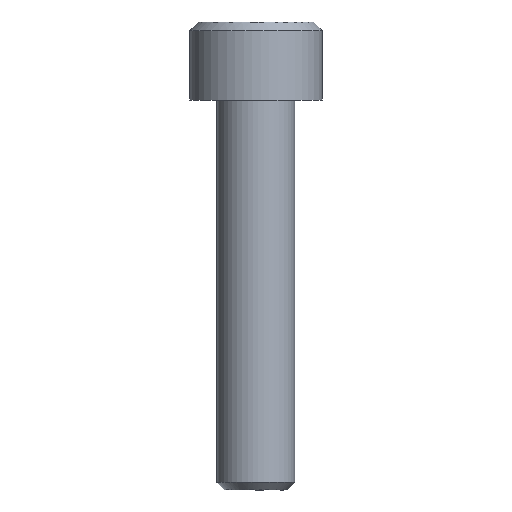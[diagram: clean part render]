
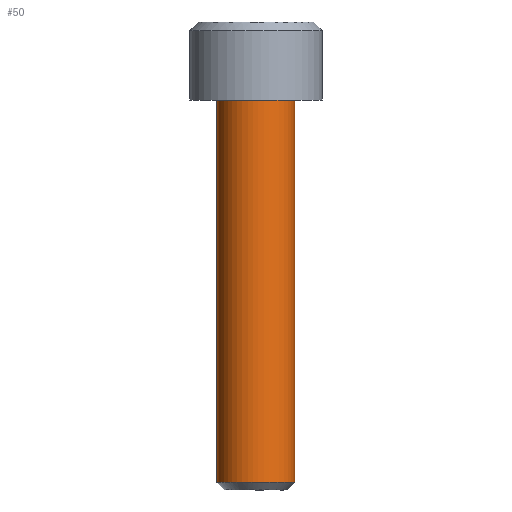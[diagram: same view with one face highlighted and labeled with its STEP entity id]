
A CAD part, front view. The second image highlights one B-rep face of the part: STEP entity #50.
In plain terms, the highlighted free-form (B-spline) face has degree [2, 1] with [9, 2] control points.
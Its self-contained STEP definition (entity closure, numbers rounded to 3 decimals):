
#50=ADVANCED_FACE('',(#75),#756,.T.);
#75=FACE_OUTER_BOUND('',#100,.T.);
#100=EDGE_LOOP('',(#191,#192,#193,#194));
#191=ORIENTED_EDGE('',*,*,#528,.F.);
#192=ORIENTED_EDGE('',*,*,#571,.T.);
#193=ORIENTED_EDGE('',*,*,#530,.F.);
#194=ORIENTED_EDGE('',*,*,#570,.F.);
#240=(
BOUNDED_CURVE()
B_SPLINE_CURVE(2,(#1373,#1374,#1375,#1376,#1377),.UNSPECIFIED.,.F.,.F.)
B_SPLINE_CURVE_WITH_KNOTS((3,2,3),(-7.854,-3.927,0.),
 .UNSPECIFIED.)
CURVE()
GEOMETRIC_REPRESENTATION_ITEM()
RATIONAL_B_SPLINE_CURVE((1.,0.707,1.,0.707,1.))
REPRESENTATION_ITEM('')
);
#241=(
BOUNDED_CURVE()
B_SPLINE_CURVE(2,(#1386,#1387,#1388,#1389,#1390),.UNSPECIFIED.,.F.,.F.)
B_SPLINE_CURVE_WITH_KNOTS((3,2,3),(-7.854,-3.927,0.),
 .UNSPECIFIED.)
CURVE()
GEOMETRIC_REPRESENTATION_ITEM()
RATIONAL_B_SPLINE_CURVE((1.,0.707,1.,0.707,1.))
REPRESENTATION_ITEM('')
);
#245=(
BOUNDED_CURVE()
B_SPLINE_CURVE(2,(#1412,#1413,#1414,#1415,#1416),.UNSPECIFIED.,.F.,.F.)
B_SPLINE_CURVE_WITH_KNOTS((3,2,3),(-7.854,-3.927,0.),
 .UNSPECIFIED.)
CURVE()
GEOMETRIC_REPRESENTATION_ITEM()
RATIONAL_B_SPLINE_CURVE((1.,0.707,1.,0.707,1.))
REPRESENTATION_ITEM('')
);
#259=PCURVE('',#751,#367);
#261=PCURVE('',#751,#369);
#332=PCURVE('',#755,#440);
#335=PCURVE('',#756,#443);
#336=PCURVE('',#756,#444);
#337=PCURVE('',#756,#445);
#338=PCURVE('',#756,#446);
#341=PCURVE('',#747,#449);
#367=DEFINITIONAL_REPRESENTATION('',(#588),#1472);
#369=DEFINITIONAL_REPRESENTATION('',(#591),#1472);
#440=DEFINITIONAL_REPRESENTATION('',(#680),#1472);
#443=DEFINITIONAL_REPRESENTATION('',(#683),#1472);
#444=DEFINITIONAL_REPRESENTATION('',(#684),#1472);
#445=DEFINITIONAL_REPRESENTATION('',(#685),#1472);
#446=DEFINITIONAL_REPRESENTATION('',(#686),#1472);
#449=DEFINITIONAL_REPRESENTATION('',(#245),#1472);
#474=SURFACE_CURVE('',#587,(#259,#335),.PCURVE_S1.);
#476=SURFACE_CURVE('',#590,(#261,#337),.PCURVE_S1.);
#516=SURFACE_CURVE('',#240,(#332,#338),.PCURVE_S1.);
#517=SURFACE_CURVE('',#241,(#336,#341),.PCURVE_S1.);
#528=EDGE_CURVE('',#707,#708,#474,.T.);
#530=EDGE_CURVE('',#709,#710,#476,.T.);
#570=EDGE_CURVE('',#708,#709,#516,.T.);
#571=EDGE_CURVE('',#707,#710,#517,.T.);
#587=B_SPLINE_CURVE_WITH_KNOTS('',1,(#1109,#1110),.UNSPECIFIED.,.F.,.F.,
(2,2),(-24.51,0.),.UNSPECIFIED.);
#588=B_SPLINE_CURVE_WITH_KNOTS('',1,(#1111,#1112),.UNSPECIFIED.,.F.,.F.,
(2,2),(-24.51,0.),.UNSPECIFIED.);
#590=B_SPLINE_CURVE_WITH_KNOTS('',1,(#1120,#1121),.UNSPECIFIED.,.F.,.F.,
(2,2),(-24.51,0.),.UNSPECIFIED.);
#591=B_SPLINE_CURVE_WITH_KNOTS('',1,(#1122,#1123),.UNSPECIFIED.,.F.,.F.,
(2,2),(-24.51,0.),.UNSPECIFIED.);
#680=B_SPLINE_CURVE_WITH_KNOTS('',1,(#1378,#1379),.UNSPECIFIED.,.F.,.F.,
(2,2),(-7.854,0.),.UNSPECIFIED.);
#683=B_SPLINE_CURVE_WITH_KNOTS('',1,(#1384,#1385),.UNSPECIFIED.,.F.,.F.,
(2,2),(-24.51,0.),.UNSPECIFIED.);
#684=B_SPLINE_CURVE_WITH_KNOTS('',1,(#1391,#1392),.UNSPECIFIED.,.F.,.F.,
(2,2),(-7.854,0.),.UNSPECIFIED.);
#685=B_SPLINE_CURVE_WITH_KNOTS('',1,(#1393,#1394),.UNSPECIFIED.,.F.,.F.,
(2,2),(-24.51,0.),.UNSPECIFIED.);
#686=B_SPLINE_CURVE_WITH_KNOTS('',1,(#1395,#1396),.UNSPECIFIED.,.F.,.F.,
(2,2),(-7.854,0.),.UNSPECIFIED.);
#707=VERTEX_POINT('',#1043);
#708=VERTEX_POINT('',#1044);
#709=VERTEX_POINT('',#1045);
#710=VERTEX_POINT('',#1046);
#747=PLANE('',#813);
#751=(
BOUNDED_SURFACE()
B_SPLINE_SURFACE(2,1,((#878,#879),(#880,#881),(#882,#883),(#884,#885),(#886,
#887),(#888,#889),(#890,#891),(#892,#893),(#894,#895)),.UNSPECIFIED.,.T.,
 .F.,.F.)
B_SPLINE_SURFACE_WITH_KNOTS((3,2,2,2,3),(2,2),(0.,1.571,3.142,
4.712,6.283),(0.,29.414),.UNSPECIFIED.)
GEOMETRIC_REPRESENTATION_ITEM()
RATIONAL_B_SPLINE_SURFACE(((1.,1.),(0.707,0.707),
(1.,1.),(0.707,0.707),(1.,1.),(0.707,
0.707),(1.,1.),(0.707,0.707),(1.,1.)))
REPRESENTATION_ITEM('')
SURFACE()
);
#755=(
BOUNDED_SURFACE()
B_SPLINE_SURFACE(2,1,((#963,#964),(#965,#966),(#967,#968),(#969,#970),(#971,
#972),(#973,#974),(#975,#976),(#977,#978),(#979,#980)),.UNSPECIFIED.,.T.,
 .F.,.F.)
B_SPLINE_SURFACE_WITH_KNOTS((3,2,2,2,3),(2,2),(0.,1.571,3.142,
4.712,6.283),(0.,3.891),.UNSPECIFIED.)
GEOMETRIC_REPRESENTATION_ITEM()
RATIONAL_B_SPLINE_SURFACE(((1.,1.),(0.707,0.707),
(1.,1.),(0.707,0.707),(1.,1.),(0.707,
0.707),(1.,1.),(0.707,0.707),(1.,1.)))
REPRESENTATION_ITEM('')
SURFACE()
);
#756=(
BOUNDED_SURFACE()
B_SPLINE_SURFACE(2,1,((#981,#982),(#983,#984),(#985,#986),(#987,#988),(#989,
#990),(#991,#992),(#993,#994),(#995,#996),(#997,#998)),.UNSPECIFIED.,.T.,
 .F.,.F.)
B_SPLINE_SURFACE_WITH_KNOTS((3,2,2,2,3),(2,2),(0.,1.571,3.142,
4.712,6.283),(0.,29.414),.UNSPECIFIED.)
GEOMETRIC_REPRESENTATION_ITEM()
RATIONAL_B_SPLINE_SURFACE(((1.,1.),(0.707,0.707),
(1.,1.),(0.707,0.707),(1.,1.),(0.707,
0.707),(1.,1.),(0.707,0.707),(1.,1.)))
REPRESENTATION_ITEM('')
SURFACE()
);
#813=AXIS2_PLACEMENT_3D('',#999,#834,$);
#834=DIRECTION('',(1.,0.,0.));
#878=CARTESIAN_POINT('',(-2.452,0.,2.5));
#879=CARTESIAN_POINT('',(26.962,0.,2.5));
#880=CARTESIAN_POINT('',(-2.452,-2.5,2.5));
#881=CARTESIAN_POINT('',(26.962,-2.5,2.5));
#882=CARTESIAN_POINT('',(-2.452,-2.5,0.));
#883=CARTESIAN_POINT('',(26.962,-2.5,0.));
#884=CARTESIAN_POINT('',(-2.452,-2.5,-2.5));
#885=CARTESIAN_POINT('',(26.962,-2.5,-2.5));
#886=CARTESIAN_POINT('',(-2.452,0.,-2.5));
#887=CARTESIAN_POINT('',(26.962,0.,-2.5));
#888=CARTESIAN_POINT('',(-2.452,2.5,-2.5));
#889=CARTESIAN_POINT('',(26.962,2.5,-2.5));
#890=CARTESIAN_POINT('',(-2.452,2.5,0.));
#891=CARTESIAN_POINT('',(26.962,2.5,0.));
#892=CARTESIAN_POINT('',(-2.452,2.5,2.5));
#893=CARTESIAN_POINT('',(26.962,2.5,2.5));
#894=CARTESIAN_POINT('',(-2.452,0.,2.5));
#895=CARTESIAN_POINT('',(26.962,0.,2.5));
#963=CARTESIAN_POINT('',(27.01,0.,0.));
#964=CARTESIAN_POINT('',(24.258,0.,-2.751));
#965=CARTESIAN_POINT('',(27.01,0.,0.));
#966=CARTESIAN_POINT('',(24.258,-2.751,-2.751));
#967=CARTESIAN_POINT('',(27.01,0.,0.));
#968=CARTESIAN_POINT('',(24.258,-2.751,0.));
#969=CARTESIAN_POINT('',(27.01,0.,0.));
#970=CARTESIAN_POINT('',(24.258,-2.751,2.751));
#971=CARTESIAN_POINT('',(27.01,0.,0.));
#972=CARTESIAN_POINT('',(24.258,0.,2.751));
#973=CARTESIAN_POINT('',(27.01,0.,0.));
#974=CARTESIAN_POINT('',(24.258,2.751,2.751));
#975=CARTESIAN_POINT('',(27.01,0.,0.));
#976=CARTESIAN_POINT('',(24.258,2.751,0.));
#977=CARTESIAN_POINT('',(27.01,0.,0.));
#978=CARTESIAN_POINT('',(24.258,2.751,-2.751));
#979=CARTESIAN_POINT('',(27.01,0.,0.));
#980=CARTESIAN_POINT('',(24.258,0.,-2.751));
#981=CARTESIAN_POINT('',(-2.452,0.,-2.5));
#982=CARTESIAN_POINT('',(26.962,0.,-2.5));
#983=CARTESIAN_POINT('',(-2.452,2.5,-2.5));
#984=CARTESIAN_POINT('',(26.962,2.5,-2.5));
#985=CARTESIAN_POINT('',(-2.452,2.5,0.));
#986=CARTESIAN_POINT('',(26.962,2.5,0.));
#987=CARTESIAN_POINT('',(-2.452,2.5,2.5));
#988=CARTESIAN_POINT('',(26.962,2.5,2.5));
#989=CARTESIAN_POINT('',(-2.452,0.,2.5));
#990=CARTESIAN_POINT('',(26.962,0.,2.5));
#991=CARTESIAN_POINT('',(-2.452,-2.5,2.5));
#992=CARTESIAN_POINT('',(26.962,-2.5,2.5));
#993=CARTESIAN_POINT('',(-2.452,-2.5,0.));
#994=CARTESIAN_POINT('',(26.962,-2.5,0.));
#995=CARTESIAN_POINT('',(-2.452,-2.5,-2.5));
#996=CARTESIAN_POINT('',(26.962,-2.5,-2.5));
#997=CARTESIAN_POINT('',(-2.452,0.,-2.5));
#998=CARTESIAN_POINT('',(26.962,0.,-2.5));
#999=CARTESIAN_POINT('',(0.,5.101,5.101));
#1043=CARTESIAN_POINT('',(0.,2.5,0.));
#1044=CARTESIAN_POINT('',(24.51,2.5,0.));
#1045=CARTESIAN_POINT('',(24.51,-2.5,0.));
#1046=CARTESIAN_POINT('',(0.,-2.5,0.));
#1109=CARTESIAN_POINT('',(0.,2.5,0.));
#1110=CARTESIAN_POINT('',(24.51,2.5,0.));
#1111=CARTESIAN_POINT('',(4.712,2.452));
#1112=CARTESIAN_POINT('',(4.712,26.962));
#1120=CARTESIAN_POINT('',(24.51,-2.5,0.));
#1121=CARTESIAN_POINT('',(0.,-2.5,0.));
#1122=CARTESIAN_POINT('',(1.571,26.962));
#1123=CARTESIAN_POINT('',(1.571,2.452));
#1373=CARTESIAN_POINT('',(24.51,2.5,0.));
#1374=CARTESIAN_POINT('',(24.51,2.5,2.5));
#1375=CARTESIAN_POINT('',(24.51,0.,2.5));
#1376=CARTESIAN_POINT('',(24.51,-2.5,2.5));
#1377=CARTESIAN_POINT('',(24.51,-2.5,0.));
#1378=CARTESIAN_POINT('',(4.712,3.536));
#1379=CARTESIAN_POINT('',(1.571,3.536));
#1384=CARTESIAN_POINT('',(1.571,2.452));
#1385=CARTESIAN_POINT('',(1.571,26.962));
#1386=CARTESIAN_POINT('',(0.,2.5,0.));
#1387=CARTESIAN_POINT('',(0.,2.5,2.5));
#1388=CARTESIAN_POINT('',(0.,0.,2.5));
#1389=CARTESIAN_POINT('',(0.,-2.5,2.5));
#1390=CARTESIAN_POINT('',(0.,-2.5,0.));
#1391=CARTESIAN_POINT('',(1.571,2.452));
#1392=CARTESIAN_POINT('',(4.712,2.452));
#1393=CARTESIAN_POINT('',(4.712,26.962));
#1394=CARTESIAN_POINT('',(4.712,2.452));
#1395=CARTESIAN_POINT('',(1.571,26.962));
#1396=CARTESIAN_POINT('',(4.712,26.962));
#1412=CARTESIAN_POINT('',(0.875,0.));
#1413=CARTESIAN_POINT('',(0.875,-2.5));
#1414=CARTESIAN_POINT('',(3.375,-2.5));
#1415=CARTESIAN_POINT('',(5.875,-2.5));
#1416=CARTESIAN_POINT('',(5.875,0.));
#1472=(
GEOMETRIC_REPRESENTATION_CONTEXT(2)
PARAMETRIC_REPRESENTATION_CONTEXT()
REPRESENTATION_CONTEXT('pspace','')
);
